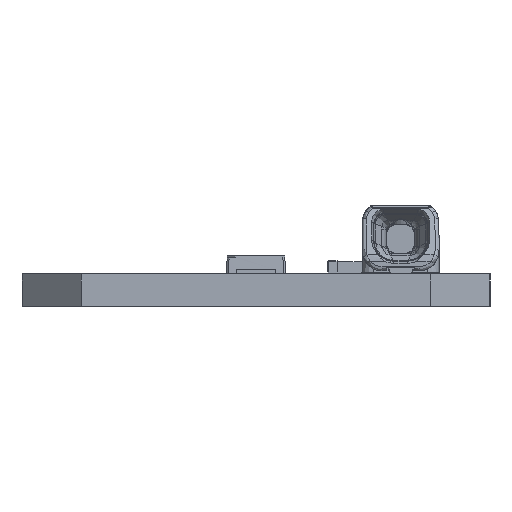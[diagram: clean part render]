
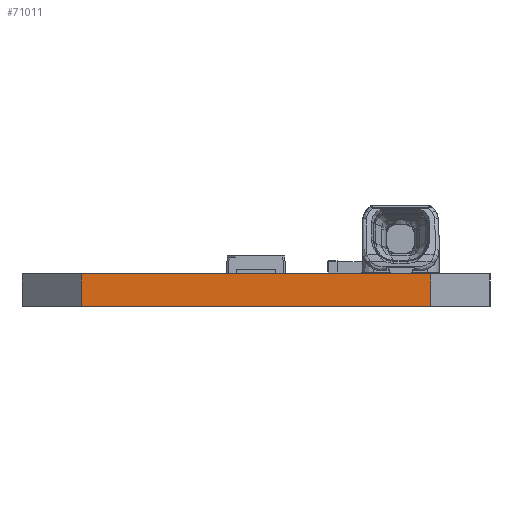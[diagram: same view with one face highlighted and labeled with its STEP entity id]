
A CAD part, left-side view. The second image highlights one B-rep face of the part: STEP entity #71011.
In plain terms, the highlighted planar face has unit normal (-1, 0, 0).
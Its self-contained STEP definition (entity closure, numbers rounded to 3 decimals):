
#3265=DIRECTION('',(0.,0.,1.));
#3266=VECTOR('',#3265,1.65);
#3267=CARTESIAN_POINT('',(-279.5,8.8,0.));
#3268=LINE('',#3267,#3266);
#3272=DIRECTION('',(0.,-1.,0.));
#3273=VECTOR('',#3272,17.6);
#3274=CARTESIAN_POINT('',(-279.5,8.8,1.65));
#3275=LINE('',#3274,#3273);
#3279=DIRECTION('',(0.,0.,1.));
#3280=VECTOR('',#3279,1.65);
#3281=CARTESIAN_POINT('',(-279.5,-8.8,0.));
#3282=LINE('',#3281,#3280);
#3549=DIRECTION('',(0.,-1.,0.));
#3550=VECTOR('',#3549,17.6);
#3551=CARTESIAN_POINT('',(-279.5,8.8,0.));
#3552=LINE('',#3551,#3550);
#59610=CARTESIAN_POINT('',(-279.5,-8.8,1.65));
#59611=VERTEX_POINT('',#59610);
#59612=CARTESIAN_POINT('',(-279.5,8.8,1.65));
#59613=VERTEX_POINT('',#59612);
#61069=CARTESIAN_POINT('',(-279.5,8.8,0.));
#61070=VERTEX_POINT('',#61069);
#61071=CARTESIAN_POINT('',(-279.5,-8.8,0.));
#61072=VERTEX_POINT('',#61071);
#70998=CARTESIAN_POINT('',(-279.5,0.,0.825));
#70999=DIRECTION('',(1.,0.,0.));
#71000=DIRECTION('',(0.,0.,1.));
#71001=AXIS2_PLACEMENT_3D('',#70998,#70999,#71000);
#71002=PLANE('',#71001);
#71004=ORIENTED_EDGE('',*,*,#71003,.F.);
#71006=ORIENTED_EDGE('',*,*,#71005,.F.);
#71007=ORIENTED_EDGE('',*,*,#70982,.T.);
#71008=ORIENTED_EDGE('',*,*,#68742,.T.);
#71009=EDGE_LOOP('',(#71004,#71006,#71007,#71008));
#71010=FACE_OUTER_BOUND('',#71009,.F.);
#68742=EDGE_CURVE('',#59613,#59611,#3275,.T.);
#70982=EDGE_CURVE('',#61070,#59613,#3268,.T.);
#71003=EDGE_CURVE('',#61072,#59611,#3282,.T.);
#71005=EDGE_CURVE('',#61070,#61072,#3552,.T.);
#71011=ADVANCED_FACE('',(#71010),#71002,.F.);
